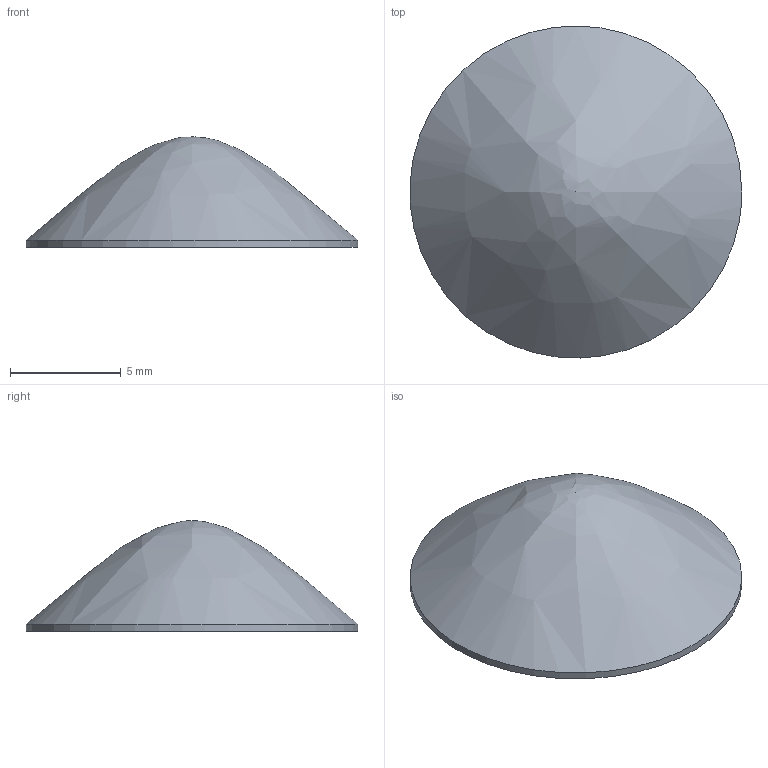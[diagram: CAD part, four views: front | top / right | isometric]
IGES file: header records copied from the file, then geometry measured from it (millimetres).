
Global section: file name: P:\Projects\3100_P5_HR\Optics\Illumination\ZemaxSimulation\XRE_1lens_coax2.IGS; native system: HarmonyWare Translators; preprocessor: HarmonyWare IGES v1.6.6; date: 20080916.141746; units: millimetre
Bounding box: 14.99 x 15 x 5 mm (x, y, z)
Volume: 417.5 mm3; surface area: 416 mm2
Topology: 1 solids, 1 shells, 3 faces, 5 edges, 3 vertices
Faces by surface type: bspline 3
